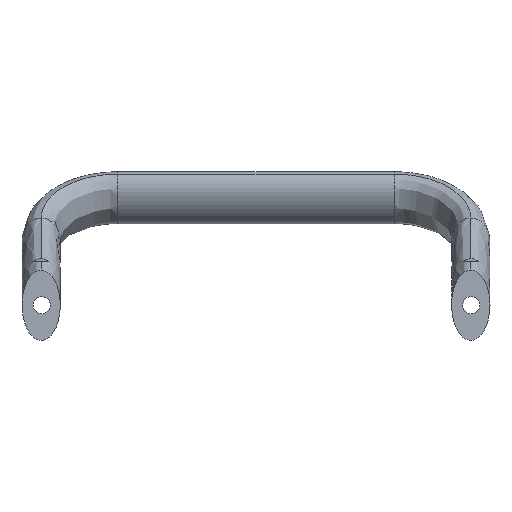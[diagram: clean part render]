
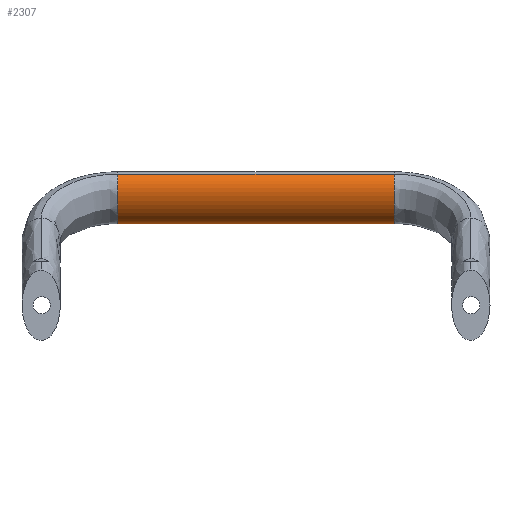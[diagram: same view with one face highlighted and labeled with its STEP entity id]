
A CAD part, front view. The second image highlights one B-rep face of the part: STEP entity #2307.
In plain terms, the highlighted free-form (B-spline) face has degree [2, 1] with [9, 2] control points.
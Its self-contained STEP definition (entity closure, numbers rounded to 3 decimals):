
#1622=CARTESIAN_POINT('',(-32.135,36.14,37.462));
#1623=VERTEX_POINT('',#1622);
#1641=CARTESIAN_POINT('',(-32.135,44.744,25.175));
#1642=VERTEX_POINT('',#1641);
#1828=CARTESIAN_POINT('',(-32.135,40.442,31.319));
#1829=DIRECTION('',(-1.0,0.0,0.0));
#1830=DIRECTION('',(0.0,0.574,-0.819));
#1831=AXIS2_PLACEMENT_3D('',#1828,#1829,#1830);
#1832=ELLIPSE('',#1831,7.5,5.);
#1833=EDGE_CURVE('',#1642,#1623,#1832,.T.);
#1864=CARTESIAN_POINT('',(39.865,36.14,37.462));
#1865=VERTEX_POINT('',#1864);
#1866=CARTESIAN_POINT('',(-32.135,36.14,37.462));
#1867=DIRECTION('',(1.0,0.0,0.0));
#1868=VECTOR('',#1867,72.0);
#1869=LINE('',#1866,#1868);
#1870=EDGE_CURVE('',#1623,#1865,#1869,.T.);
#1872=CARTESIAN_POINT('',(39.865,44.744,25.175));
#1873=VERTEX_POINT('',#1872);
#1881=CARTESIAN_POINT('',(39.865,44.744,25.175));
#1882=DIRECTION('',(-1.0,0.0,0.0));
#1883=VECTOR('',#1882,72.0);
#1884=LINE('',#1881,#1883);
#1885=EDGE_CURVE('',#1873,#1642,#1884,.T.);
#2269=CARTESIAN_POINT('',(-32.135,36.14,37.462));
#2270=CARTESIAN_POINT('',(-32.135,40.236,40.33));
#2271=CARTESIAN_POINT('',(-32.135,44.538,34.187));
#2272=CARTESIAN_POINT('',(-32.135,48.839,28.043));
#2273=CARTESIAN_POINT('',(-32.135,44.744,25.175));
#2274=CARTESIAN_POINT('',(-32.135,40.648,22.307));
#2275=CARTESIAN_POINT('',(-32.135,36.346,28.451));
#2276=CARTESIAN_POINT('',(-32.135,32.044,34.595));
#2277=CARTESIAN_POINT('',(-32.135,36.14,37.462));
#2278=CARTESIAN_POINT('',(54.265,36.14,37.462));
#2279=CARTESIAN_POINT('',(54.265,40.236,40.33));
#2280=CARTESIAN_POINT('',(54.265,44.538,34.187));
#2281=CARTESIAN_POINT('',(54.265,48.839,28.043));
#2282=CARTESIAN_POINT('',(54.265,44.744,25.175));
#2283=CARTESIAN_POINT('',(54.265,40.648,22.307));
#2284=CARTESIAN_POINT('',(54.265,36.346,28.451));
#2285=CARTESIAN_POINT('',(54.265,32.044,34.595));
#2286=CARTESIAN_POINT('',(54.265,36.14,37.462));
#2294=(BOUNDED_SURFACE()B_SPLINE_SURFACE(2,1,((#2269,#2278),(#2270,#2279),(#2271,#2280),(#2272,#2281),(#2273,#2282),(#2274,#2283),(#2275,#2284),(#2276,#2285),(#2277,#2286)),.UNSPECIFIED.,.T.,.F.,.F.)B_SPLINE_SURFACE_WITH_KNOTS((3,2,2,2,3),(2,2),(0.0,0.25,0.5,0.75,1.0),(0.0,8.64),.UNSPECIFIED.)GEOMETRIC_REPRESENTATION_ITEM()RATIONAL_B_SPLINE_SURFACE(((1.0,1.0),(0.707,0.707),(1.0,1.0),(0.707,0.707),(1.0,1.0),(0.707,0.707),(1.0,1.0),(0.707,0.707),(1.0,1.0)))REPRESENTATION_ITEM('')SURFACE());
#2295=ORIENTED_EDGE('',*,*,#1870,.F.);
#2296=ORIENTED_EDGE('',*,*,#1833,.F.);
#2297=ORIENTED_EDGE('',*,*,#1885,.F.);
#2298=CARTESIAN_POINT('',(39.865,40.442,31.319));
#2299=DIRECTION('',(-1.0,0.0,0.0));
#2300=DIRECTION('',(0.0,0.574,-0.819));
#2301=AXIS2_PLACEMENT_3D('',#2298,#2299,#2300);
#2302=ELLIPSE('',#2301,7.5,5.);
#2303=EDGE_CURVE('',#1873,#1865,#2302,.T.);
#2304=ORIENTED_EDGE('',*,*,#2303,.T.);
#2305=EDGE_LOOP('',(#2295,#2296,#2297,#2304));
#2306=FACE_OUTER_BOUND('',#2305,.T.);
#2307=ADVANCED_FACE('',(#2306),#2294,.F.);
